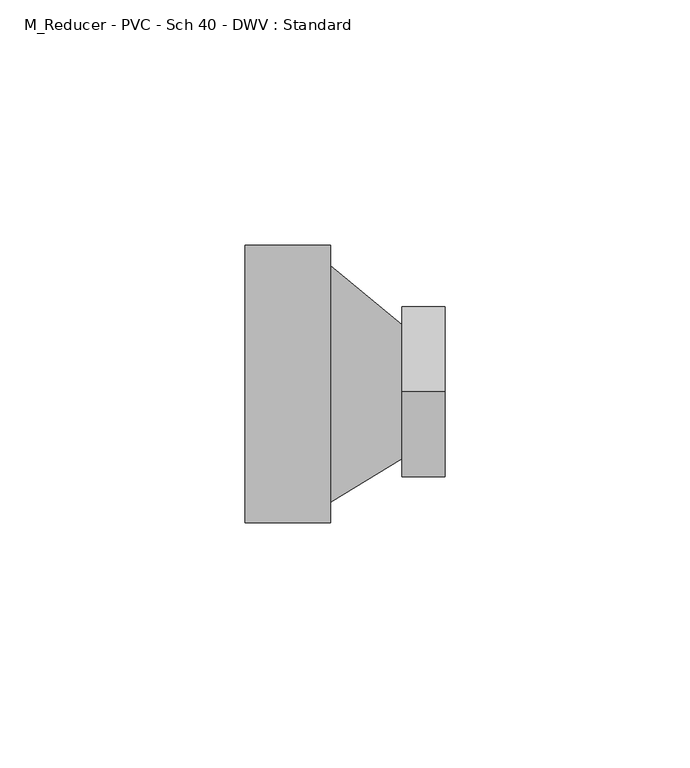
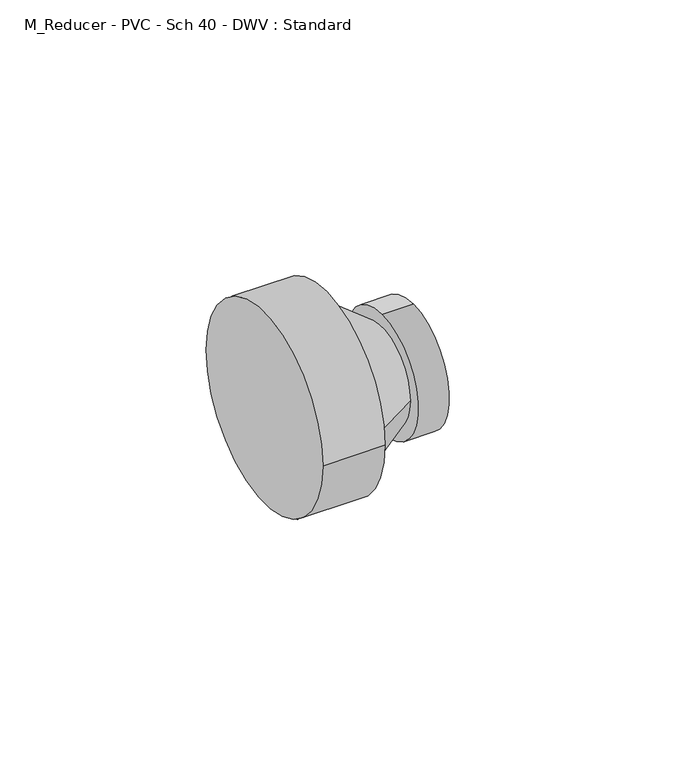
"""IFC4 building model written with IfcOpenShell, lengths in millimetres: pipe fitting geometry, M_Reducer - PVC - Sch 40 - DWV : Standard."""

from ifc_helpers import new_model, si_unit, frame, origin, place, context, project, spatial, circle_curve, source, transform, mapped, element, save
from ifc_brep_helpers import plane_surface, cylinder_surface, spline_surface, advanced_brep


def m_reducer_pvc_sch_40_dwv_standard_bae070a7(model_context):
    return source(origin(), model_context, "Body", "AdvancedBrep", [
        advanced_brep(
        [(0.0, 28.2829, 0.0), (0.0, -28.2829, 0.0), (17.4498, 28.2829, 0.0), (17.4498, -28.2829, 0.0), (17.4498, -24.13, 0.0), (17.4498, 24.13, 0.0), (32.0210938, 12.0767954, 0.0), (32.0210938, -15.2513296, 0.0), (32.0210938, -1.5872671, 17.4371094), (32.0210938, -1.5872671, -17.4371094), (40.7710938, -1.5872671, 17.4371094), (40.7710938, -1.5872671, -17.4371094)],
        [
            (0, 1, circle_curve(frame((0.0, 0.0, 0.0), z_axis=(-1.0, 0.0, 0.0), x_axis=(0.0, -1.0, 0.0)), 28.2829)),
            (1, 0, circle_curve(frame((0.0, 0.0, 0.0), z_axis=(-1.0, 0.0, 0.0), x_axis=(0.0, -1.0, 0.0)), 28.2829)),
            (2, 3, circle_curve(frame((17.4498, 0.0, 0.0), z_axis=(1.0, 0.0, 0.0), x_axis=(0.0, -1.0, 0.0)), 28.2829)),
            (3, 2, circle_curve(frame((17.4498, 0.0, 0.0), z_axis=(1.0, 0.0, 0.0), x_axis=(0.0, -1.0, 0.0)), 28.2829)),
            (4, 5, circle_curve(frame((17.4498, 0.0, 0.0), z_axis=(-1.0, 0.0, 0.0), x_axis=(0.0, -1.0, 0.0)), 24.13)),
            (5, 4, circle_curve(frame((17.4498, 0.0, 0.0), z_axis=(-1.0, 0.0, 0.0), x_axis=(0.0, -1.0, 0.0)), 24.13)),
            (1, 3),
            (2, 0),
            (5, 6),
            (6, 7, circle_curve(frame((32.0210938, -1.5872671, 0.0), z_axis=(-1.0, 0.0, 0.0), x_axis=(0.0, -1.0, 0.0)), 13.6640625)),
            (7, 4),
            (7, 6, circle_curve(frame((32.0210938, -1.5872671, 0.0), z_axis=(-1.0, 0.0, 0.0), x_axis=(0.0, -1.0, 0.0)), 13.6640625)),
            (8, 9, circle_curve(frame((32.0210938, -1.5872671, 0.0), z_axis=(-1.0, 0.0, 0.0), x_axis=(0.0, 0.0, -1.0)), 17.4371094)),
            (9, 8, circle_curve(frame((32.0210938, -1.5872671, 0.0), z_axis=(-1.0, 0.0, 0.0), x_axis=(0.0, 0.0, -1.0)), 17.4371094)),
            (10, 11, circle_curve(frame((40.7710938, -1.5872671, 0.0), z_axis=(1.0, 0.0, 0.0), x_axis=(0.0, 0.0, -1.0)), 17.4371094)),
            (11, 10, circle_curve(frame((40.7710938, -1.5872671, 0.0), z_axis=(1.0, 0.0, 0.0), x_axis=(0.0, 0.0, -1.0)), 17.4371094)),
            (9, 11),
            (10, 8),
        ],
        [
            plane_surface(frame((0.0, 0.0, 0.0), z_axis=(-1.0, 0.0, 0.0), x_axis=(0.0, 0.0, 1.0))),
            plane_surface(frame((17.4498, 0.0, 0.0), z_axis=(1.0, 0.0, 0.0), x_axis=(0.0, 0.0, 1.0))),
            cylinder_surface(frame((0.0, 0.0, 0.0), z_axis=(-1.0, 0.0, 0.0), x_axis=(0.0, -1.0, 0.0)), 28.2829),
            spline_surface(1, 2, [[(17.4498, 24.13, 0.0), (17.4498, 24.13, -24.13), (17.4498, 0.0, -24.13), (17.4498, -24.13, -24.13), (17.4498, -24.13, 0.0)], [(32.0210938, 12.0767954, 0.0), (32.0210938, 12.0767954, -13.6640625), (32.0210938, -1.5872671, -13.6640625), (32.0210938, -15.2513296, -13.6640625), (32.0210938, -15.2513296, 0.0)]], [2, 2], [3, 2, 3], [0.0, 1.0], [0.0, 1.0, 2.0], weights=[[1.0, 0.7071067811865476, 1.0, 0.7071067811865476, 1.0], [1.0, 0.7071067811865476, 1.0, 0.7071067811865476, 1.0]]),
            spline_surface(1, 2, [[(17.4498, -24.13, 0.0), (17.4498, -24.13, 24.13), (17.4498, 0.0, 24.13), (17.4498, 24.13, 24.13), (17.4498, 24.13, 0.0)], [(32.0210938, -15.2513296, 0.0), (32.0210938, -15.2513296, 13.6640625), (32.0210938, -1.5872671, 13.6640625), (32.0210938, 12.0767954, 13.6640625), (32.0210938, 12.0767954, 0.0)]], [2, 2], [3, 2, 3], [0.0, 1.0], [0.0, 1.0, 2.0], weights=[[1.0, 0.7071067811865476, 1.0, 0.7071067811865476, 1.0], [1.0, 0.7071067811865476, 1.0, 0.7071067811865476, 1.0]]),
            plane_surface(frame((32.0210938, -1.5872671, 0.0), z_axis=(-1.0, 0.0, 0.0), x_axis=(0.0, -1.0, 0.0))),
            plane_surface(frame((40.7710938, -1.5872671, 0.0), z_axis=(1.0, 0.0, 0.0), x_axis=(0.0, -1.0, 0.0))),
            cylinder_surface(frame((32.0210938, -1.5872671, 0.0), z_axis=(-1.0, 0.0, 0.0), x_axis=(0.0, 0.0, -1.0)), 17.4371094),
        ],
        [
            (0, [[1, 2]]),
            (1, [[3, 4], [5, 6]]),
            (2, [[7, -3, 8, -2]]),
            (2, [[-8, -4, -7, -1]]),
            (3, [[-6, 9, 10, 11]]),
            (4, [[12, -9, -5, -11]]),
            (5, [[13, 14], [-12, -10]]),
            (6, [[15, 16]]),
            (7, [[17, -15, 18, -14]]),
            (7, [[-18, -16, -17, -13]]),
        ],
    ),
    ])


if __name__ == "__main__":
    model = new_model("IFC4")
    model_context = context("Model", 3, world=origin())
    ifc_project = project(units=[si_unit("LENGTHUNIT", "METRE", prefix="MILLI")], contexts=[model_context])
    site = spatial("IfcSite", under=ifc_project)
    building = spatial("IfcBuilding", under=site)
    placement = place(None, origin())
    m_reducer_pvc_sch_40_dwv_standard_shape = m_reducer_pvc_sch_40_dwv_standard_bae070a7(model_context)
    element("IfcPipeFitting", 1, ObjectType="M_Reducer - PVC - Sch 40 - DWV : Standard", at=placement, inside=building, context=model_context, shape_type="MappedRepresentation", body=[
        mapped(m_reducer_pvc_sch_40_dwv_standard_shape, transform((0.0, 0.0, 0.0), x_axis=(1.0, 0.0, 0.0), y_axis=(0.0, 1.0, 0.0), z_axis=(0.0, 0.0, 1.0))),
    ])
    save(model, "model.ifc")
